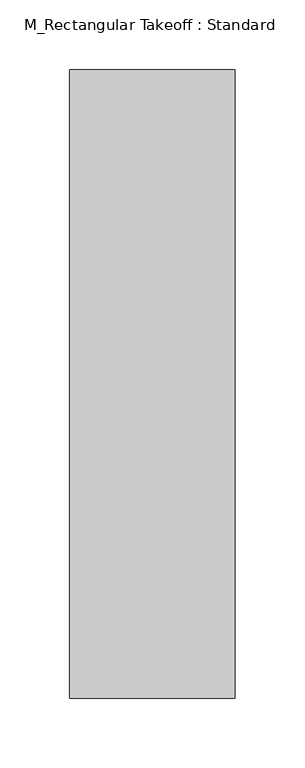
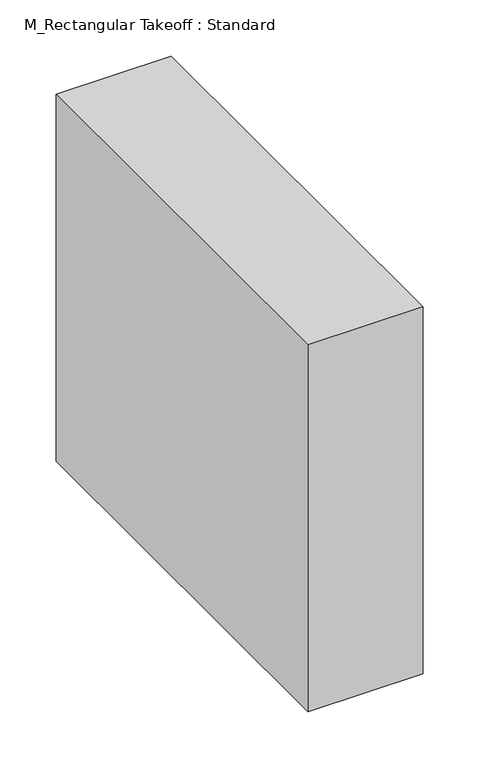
"""IFC4 building model written with IfcOpenShell, lengths in millimetres: duct fitting geometry, M_Rectangular Takeoff : Standard."""

from ifc_helpers import new_model, si_unit, frame, origin, place, context, project, spatial, polyline, outline, extrude, source, transform, mapped, element, save


def m_rectangular_takeoff_standard_7adbfd3e(model_context):
    return source(origin(), model_context, "Body", "SweptSolid", [
        extrude(outline(polyline([(-6.096, -225.0), (-6.096, 225.0), (112.5, 225.0), (112.5, -225.0), (-6.096, -225.0)])), frame((0.0, 0.0, -200.0), z_axis=(0.0, 0.0, 1.0), x_axis=(1.0, 0.0, 0.0)), (0.0, 0.0, 1.0), 400.0),
        extrude(outline(polyline([(-6.096, -225.0), (-6.096, 225.0), (112.5, 225.0), (112.5, -225.0), (-6.096, -225.0)])), frame((0.0, 0.0, -200.0), z_axis=(0.0, 0.0, 1.0), x_axis=(1.0, 0.0, 0.0)), (0.0, 0.0, 1.0), 400.0),
        extrude(outline(polyline([(-6.096, -225.0), (-6.096, 225.0), (112.5, 225.0), (112.5, -225.0), (-6.096, -225.0)])), frame((0.0, 0.0, -200.0), z_axis=(0.0, 0.0, 1.0), x_axis=(1.0, 0.0, 0.0)), (0.0, 0.0, 1.0), 400.0),
    ])


if __name__ == "__main__":
    model = new_model("IFC4")
    model_context = context("Model", 3, world=origin())
    ifc_project = project(units=[si_unit("LENGTHUNIT", "METRE", prefix="MILLI")], contexts=[model_context])
    site = spatial("IfcSite", under=ifc_project)
    building = spatial("IfcBuilding", under=site)
    placement = place(None, origin())
    m_rectangular_takeoff_standard_shape = m_rectangular_takeoff_standard_7adbfd3e(model_context)
    element("IfcDuctFitting", 1, ObjectType="M_Rectangular Takeoff : Standard", at=placement, inside=building, context=model_context, shape_type="MappedRepresentation", body=[
        mapped(m_rectangular_takeoff_standard_shape, transform((0.0, 0.0, 0.0), x_axis=(1.0, 0.0, 0.0), y_axis=(0.0, 1.0, 0.0), z_axis=(0.0, 0.0, 1.0))),
    ])
    save(model, "model.ifc")
